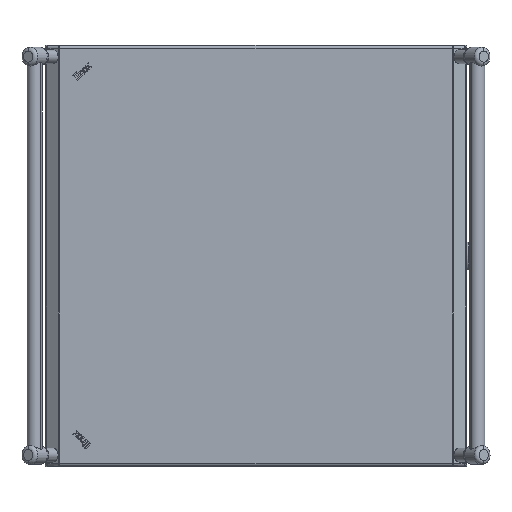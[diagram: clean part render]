
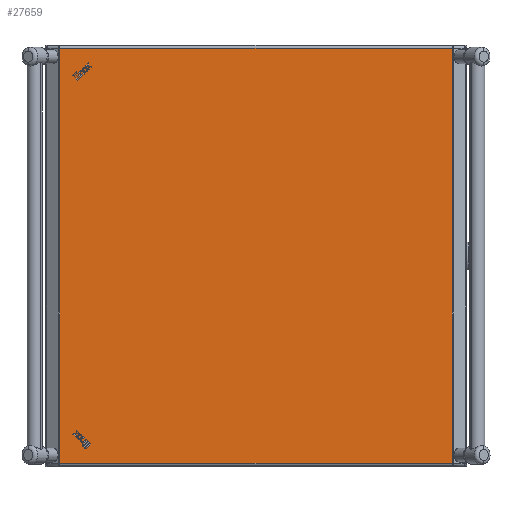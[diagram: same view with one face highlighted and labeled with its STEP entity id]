
A CAD part, top view. The second image highlights one B-rep face of the part: STEP entity #27659.
In plain terms, the highlighted planar face has unit normal (0, 0, 1).
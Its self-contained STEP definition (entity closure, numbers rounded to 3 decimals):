
#1128 = DIRECTION ( 'NONE',  ( -1., 0., 0. ) ) ;
#1533 = VECTOR ( 'NONE', #25667, 1000. ) ;
#1957 = CARTESIAN_POINT ( 'NONE',  ( 209.294, -221.35, 26.5 ) ) ;
#2545 = LINE ( 'NONE', #10969, #20951 ) ;
#2578 = CARTESIAN_POINT ( 'NONE',  ( 210.25, -221.35, 26.5 ) ) ;
#3756 = VERTEX_POINT ( 'NONE', #1957 ) ;
#3896 = LINE ( 'NONE', #27160, #23367 ) ;
#4171 = EDGE_CURVE ( 'NONE', #3756, #25452, #2545, .T. ) ;
#4813 = LINE ( 'NONE', #18438, #1533 ) ;
#4823 = DIRECTION ( 'NONE',  ( 1., 0., 0. ) ) ;
#5055 = CARTESIAN_POINT ( 'NONE',  ( -209.294, -221.35, 26.5 ) ) ;
#7920 = CARTESIAN_POINT ( 'NONE',  ( 209.294, 221.35, 26.5 ) ) ;
#8066 = PLANE ( 'NONE',  #33433 ) ;
#10179 = EDGE_CURVE ( 'NONE', #25452, #27999, #3896, .T. ) ;
#10565 = VECTOR ( 'NONE', #4823, 1000. ) ;
#10969 = CARTESIAN_POINT ( 'NONE',  ( 209.294, -224.35, 26.5 ) ) ;
#13593 = FACE_OUTER_BOUND ( 'NONE', #31463, .T. ) ;
#14716 = ORIENTED_EDGE ( 'NONE', *, *, #10179, .T. ) ;
#15558 = VERTEX_POINT ( 'NONE', #5055 ) ;
#16520 = DIRECTION ( 'NONE',  ( 0., 0., 1. ) ) ;
#18438 = CARTESIAN_POINT ( 'NONE',  ( -209.294, -224.35, 26.5 ) ) ;
#20951 = VECTOR ( 'NONE', #29406, 1000. ) ;
#21856 = CARTESIAN_POINT ( 'NONE',  ( 224.35, -224.35, 26.5 ) ) ;
#23367 = VECTOR ( 'NONE', #1128, 1000. ) ;
#23593 = LINE ( 'NONE', #2578, #10565 ) ;
#24091 = DIRECTION ( 'NONE',  ( 1., 0., 0. ) ) ;
#25452 = VERTEX_POINT ( 'NONE', #7920 ) ;
#25667 = DIRECTION ( 'NONE',  ( 0., -1., 0. ) ) ;
#26136 = CARTESIAN_POINT ( 'NONE',  ( -209.294, 221.35, 26.5 ) ) ;
#27160 = CARTESIAN_POINT ( 'NONE',  ( -210.25, 221.35, 26.5 ) ) ;
#27537 = EDGE_CURVE ( 'NONE', #27999, #15558, #4813, .T. ) ;
#27659 = ADVANCED_FACE ( 'NONE', ( #13593 ), #8066, .T. ) ;
#27999 = VERTEX_POINT ( 'NONE', #26136 ) ;
#28788 = ORIENTED_EDGE ( 'NONE', *, *, #4171, .T. ) ;
#29406 = DIRECTION ( 'NONE',  ( 0., 1., 0. ) ) ;
#29931 = ORIENTED_EDGE ( 'NONE', *, *, #27537, .T. ) ;
#30322 = ORIENTED_EDGE ( 'NONE', *, *, #33881, .T. ) ;
#31463 = EDGE_LOOP ( 'NONE', ( #29931, #30322, #28788, #14716 ) ) ;
#33433 = AXIS2_PLACEMENT_3D ( 'NONE', #21856, #16520, #24091 ) ;
#33881 = EDGE_CURVE ( 'NONE', #15558, #3756, #23593, .T. ) ;
